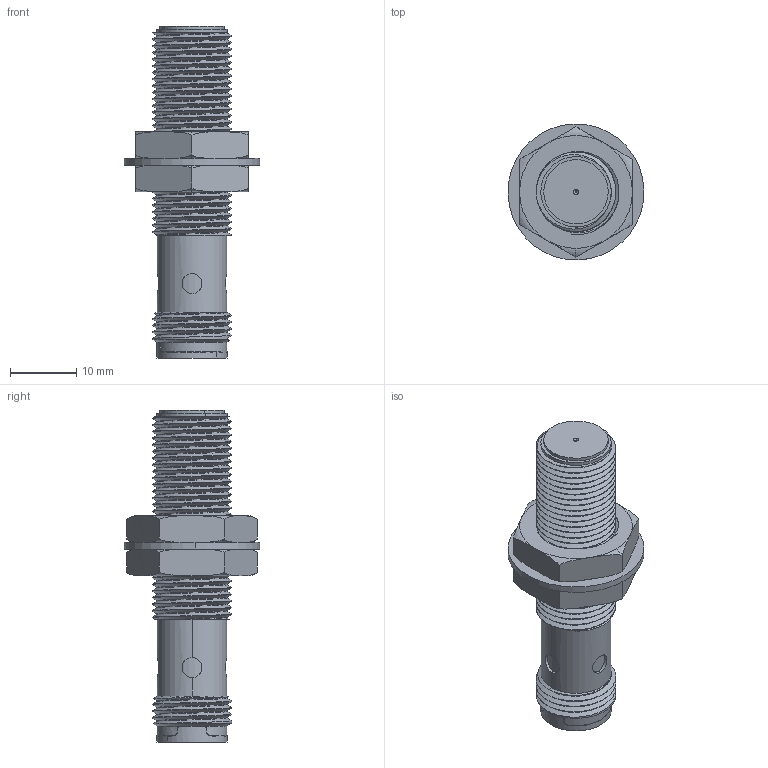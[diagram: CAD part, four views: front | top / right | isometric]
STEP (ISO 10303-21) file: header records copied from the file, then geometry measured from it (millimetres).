
FILE_DESCRIPTION (( 'STEP AP214' ), '1' );
FILE_NAME ('SN12Y-B-E2-K50.STEP', '2025-08-20T11:11:14', ( 'Windows User' ), ( 'P R C' ), 'SwSTEP 2.0', 'SolidWorks 2023', '' );
FILE_SCHEMA (( 'AUTOMOTIVE_DESIGN' ));
Length unit declared in the file: millimetre
Products named in the file (8): M12 插件式壳体_1; M12 Connector 更新定位槽; SN12Y-E(2); 屏蔽圈_1; 零件3; M12垫片_1; SN12Y-B-E2-K50; M12螺丝
Assembly tree (8 placements, depth 3):
  SN12Y-B-E2-K50
    SN12Y-E(2)
      屏蔽圈_1
      零件3
      M12螺丝
    M12 插件式壳体_1
    M12 Connector 更新定位槽
    M12螺丝
    M12垫片_1
Bounding box: 20.48 x 20.48 x 50 mm (x, y, z)
Volume: 3481.1 mm3; surface area: 8164.1 mm2
Topology: 7 solids, 8 shells, 570 faces, 1467 edges, 931 vertices
Faces by surface type: cylinder 244, plane 166, bspline 63, torus 56, cone 31, sphere 10
Entity records: 35175 total; most frequent: CARTESIAN_POINT 22843, ORIENTED_EDGE 2734, DIRECTION 2280, EDGE_CURVE 1367, VERTEX_POINT 872, AXIS2_PLACEMENT_3D 848, VECTOR 584, LINE 584
